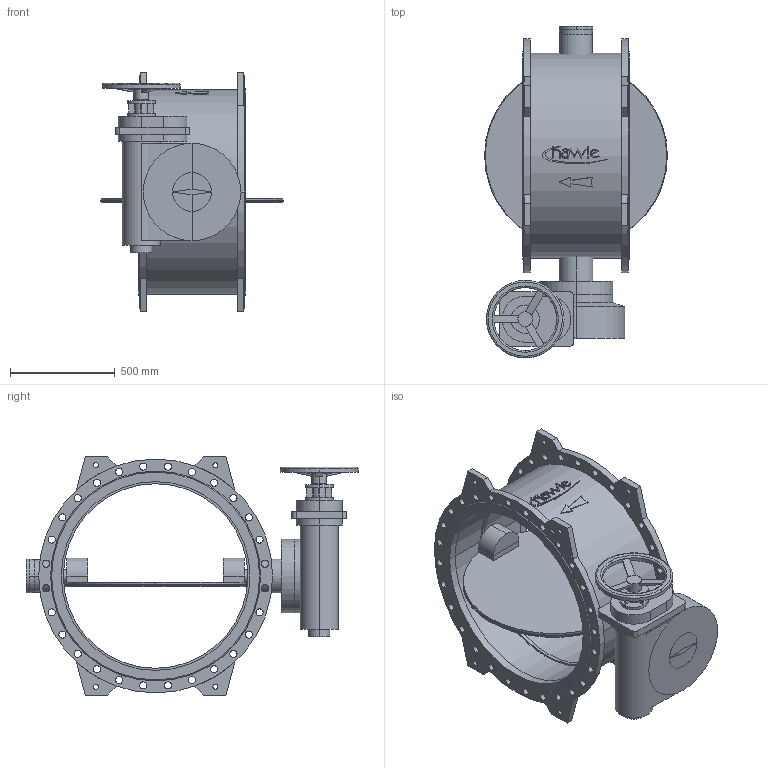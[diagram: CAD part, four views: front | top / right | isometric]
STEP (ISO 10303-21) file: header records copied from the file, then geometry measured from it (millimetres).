
FILE_DESCRIPTION(('STEP AP214'),'1');
FILE_NAME('S:/EK/USER/CAT6/3DHomepage_27-04-2012/neu_08-01-2013/9881K/9881K_PN10_DN900_7800.STP','2013-03-11T15:20:47',(' '),(' '),'Spatial InterOp 3D',' ',' ');
FILE_SCHEMA(('automotive_design'));
Length unit declared in the file: millimetre
Products named in the file (53): 3D-Objekt
Bounding box: 872 x 1583 x 1136 mm (x, y, z)
Volume: 173545807.6 mm3; surface area: 10148375.6 mm2
Topology: 53 solids, 53 shells, 491 faces, 1148 edges, 766 vertices
Faces by surface type: cylinder 249, plane 230, cone 8, torus 4
Entity records: 19703 total; most frequent: DIRECTION 2780, CARTESIAN_POINT 2458, ORIENTED_EDGE 2296, EDGE_CURVE 1148, AXIS2_PLACEMENT_3D 1088, VERTEX_POINT 766, EDGE_LOOP 640, LINE 604
